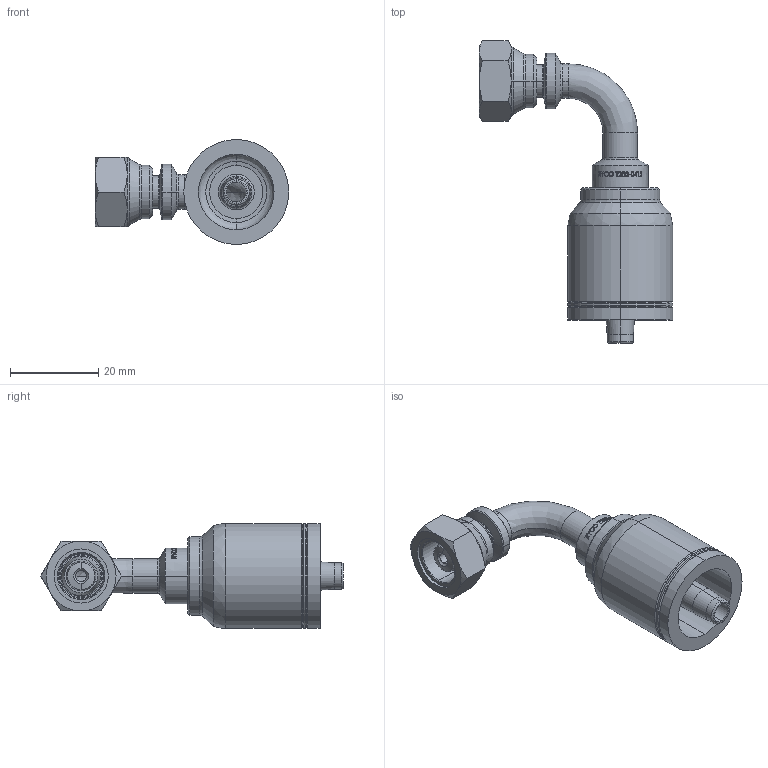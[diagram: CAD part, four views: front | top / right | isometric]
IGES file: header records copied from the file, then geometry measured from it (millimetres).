
Start section: SolidWorks IGES file using analytic representation for surfaces
Global section: file name: X:\SolidWorks\Solidworks models-to be checked\Customer Part Models\T252-0412.IGS; native system: SolidWorks 2010; preprocessor: SolidWorks 2010; author: MKitchenham; date: 120326.153618; units: millimetre
Bounding box: 43.92 x 68.69 x 23.82 mm (x, y, z)
Volume: 10689.6 mm3; surface area: 8767.5 mm2
Topology: 2 solids, 2 shells, 318 faces, 760 edges, 472 vertices
Faces by surface type: revolution 165, bspline 77, plane 76
